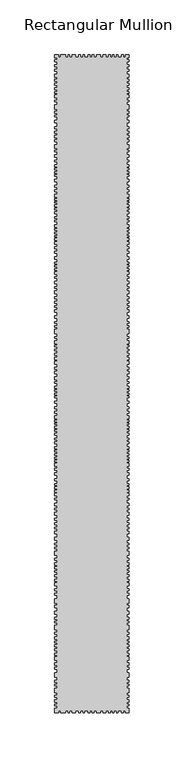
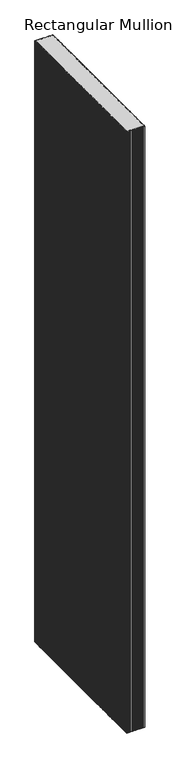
"""IFC4 building model written with IfcOpenShell, lengths in millimetres: member geometry, Rectangular Mullion : DucoSun Cubic Design louvre 600."""

from ifc_helpers import new_model, si_unit, frame, origin, place, context, project, spatial, polyline, outline, extrude, source, transform, mapped, element, save


def rectangular_mullion_ba943581(model_context):
    return source(origin(), model_context, "Body", "SweptSolid", [
        extrude(outline(polyline([(-68.0, 597.3782451), (-68.0, 600.0), (-64.4544414, 600.0), (-64.4544414, 598.0), (-62.627942, 598.0), (-62.627942, 600.0), (-57.9842994, 600.0), (-57.9842994, 598.0), (-55.8172663, 598.0), (-55.8172663, 600.0), (-54.3003431, 600.0), (-54.3003431, 598.0), (-51.9475642, 598.0), (-51.9475642, 600.0), (-48.8827601, 600.0), (-48.8827601, 598.0), (-46.0965746, 598.0), (-46.0965746, 600.0), (-44.3939057, 600.0), (-44.3939057, 598.0), (-42.0101692, 598.0), (-42.0101692, 600.0), (-40.5242036, 600.0), (-40.5242036, 598.0), (-37.4884678, 598.0), (-37.4884678, 600.0), (-35.7094289, 600.0), (-35.7094289, 598.0), (-34.0, 598.0), (-34.0, 600.0), (-32.1513512, 600.0), (-32.1513512, 598.0), (-29.7871022, 598.0), (-29.7871022, 600.0), (-26.0183489, 600.0), (-26.0183489, 598.0), (-23.9584092, 598.0), (-23.9584092, 600.0), (-21.2664425, 600.0), (-21.2664425, 598.0), (-18.9958271, 598.0), (-18.9958271, 600.0), (-17.1231547, 600.0), (-17.1231547, 598.0), (-15.0632149, 598.0), (-15.0632149, 600.0), (-13.7289358, 600.0), (-13.7289358, 598.0), (-11.6924045, 598.0), (-11.6924045, 600.0), (-10.1006329, 600.0), (-10.1006329, 598.0), (-7.0341317, 598.0), (-7.0341317, 600.0), (-5.0678256, 600.0), (-5.0678256, 598.0), (-3.1249279, 598.0), (-3.1249279, 600.0), (0.0, 600.0), (0.0, 597.3782451), (-2.0, 597.3782451), (-2.0, 595.4241521), (0.0, 595.4241521), (0.0, 593.6532553), (-2.0, 593.6532553), (-2.0, 590.9460223), (0.0, 590.9460223), (0.0, 588.9105087), (-2.0, 588.9105087), (-2.0, 586.7121541), (0.0, 586.7121541), (0.0, 585.0023227), (-2.0, 585.0023227), (-2.0, 582.3561551), (0.0, 582.3561551), (0.0, 579.3843053), (-2.0, 579.3843053), (-2.0, 577.8917893), (0.0, 577.8917893), (0.0, 575.8425117), (-2.0, 575.8425117), (-2.0, 573.8680636), (0.0, 573.8680636), (0.0, 572.1582322), (-2.0, 572.1582322), (-2.0, 570.0820083), (0.0, 570.0820083), (0.0, 568.3111116), (-2.0, 568.3111116), (-2.0, 566.4995045), (0.0, 566.4995045), (0.0, 565.0713495), (-2.0, 565.0713495), (-2.0, 563.4577392), (0.0, 563.4577392), (0.0, 561.0328231), (-2.0, 561.0328231), (-2.0, 558.5725067), (0.0, 558.5725067), (0.0, 557.0325964), (-2.0, 557.0325964), (-2.0, 554.5014796), (0.0, 554.5014796), (0.0, 550.4127524), (-2.0, 550.4127524), (-2.0, 548.4126391), (0.0, 548.4126391), (0.0, 546.8373286), (-2.0, 546.8373286), (-2.0, 544.9965163), (0.0, 544.9965163), (0.0, 543.3504053), (-2.0, 543.3504053), (-2.0, 540.3767855), (0.0, 540.3767855), (0.0, 537.9545244), (-2.0, 537.9545244), (-2.0, 534.5552168), (0.0, 534.5552168), (0.0, 532.5197032), (-2.0, 532.5197032), (-2.0, 530.239928), (0.0, 530.239928), (0.0, 528.6929377), (-2.0, 528.6929377), (-2.0, 526.4335177), (0.0, 526.4335177), (0.0, 524.5608452), (-2.0, 524.5608452), (-2.0, 522.6271073), (0.0, 522.6271073), (0.0, 520.5508835), (-2.0, 520.5508835), (-2.0, 518.0064916), (0.0, 518.0064916), (0.0, 514.9328661), (-2.0, 514.9328661), (-2.0, 512.9177077), (0.0, 512.9177077), (0.0, 511.4114277), (-2.0, 511.4114277), (-2.0, 508.9688114), (0.0, 508.9688114), (0.0, 506.7118273), (-2.0, 506.7118273), (-2.0, 503.8852623), (0.0, 503.8852623), (0.0, 502.4316003), (-2.0, 502.4316003), (-2.0, 499.9011516), (0.0, 499.9011516), (0.0, 497.8552569), (-2.0, 497.8552569), (-2.0, 496.6169522), (0.0, 496.6169522), (0.0, 495.0825312), (-2.0, 495.0825312), (-2.0, 493.4673512), (0.0, 493.4673512), (0.0, 492.0675286), (-2.0, 492.0675286), (-2.0, 490.5869469), (0.0, 490.5869469), (0.0, 489.1602046), (-2.0, 489.1602046), (-2.0, 486.3310055), (0.0, 486.3310055), (0.0, 484.2608252), (-2.0, 484.2608252), (-2.0, 481.1919832), (0.0, 481.1919832), (0.0, 479.2537672), (-2.0, 479.2537672), (-2.0, 476.9360418), (0.0, 476.9360418), (0.0, 475.0004598), (-2.0, 475.0004598), (-2.0, 472.9007258), (0.0, 472.9007258), (0.0, 470.1010805), (-2.0, 470.1010805), (-2.0, 468.8089365), (0.0, 468.8089365), (0.0, 467.3014351), (-2.0, 467.3014351), (-2.0, 466.0362108), (0.0, 466.0362108), (0.0, 465.0401831), (-2.0, 465.0401831), (-2.0, 463.2096458), (0.0, 463.2096458), (0.0, 461.6483051), (-2.0, 461.6483051), (-2.0, 460.1408038), (0.0, 460.1408038), (0.0, 458.6063828), (-2.0, 458.6063828), (-2.0, 457.0719618), (0.0, 457.0719618), (0.0, 455.0799064), (-2.0, 455.0799064), (-2.0, 452.3762692), (0.0, 452.3762692), (0.0, 450.8903036), (-2.0, 450.8903036), (-2.0, 449.1257194), (0.0, 449.1257194), (0.0, 447.6087962), (-2.0, 447.6087962), (-2.0, 444.8535683), (0.0, 444.8535683), (0.0, 442.7484504), (-2.0, 442.7484504), (-2.0, 441.4172729), (0.0, 441.4172729), (0.0, 439.9622649), (-2.0, 439.9622649), (-2.0, 438.3524688), (0.0, 438.3524688), (0.0, 436.8355456), (-2.0, 436.8355456), (-2.0, 435.1947919), (0.0, 435.1947919), (0.0, 433.9255296), (-2.0, 433.9255296), (-2.0, 432.5014792), (0.0, 432.5014792), (0.0, 431.1083865), (-2.0, 431.1083865), (-2.0, 429.6843361), (0.0, 429.6843361), (0.0, 427.0529387), (-2.0, 427.0529387), (-2.0, 424.9787784), (0.0, 424.9787784), (0.0, 423.0284485), (-2.0, 423.0284485), (-2.0, 420.7995001), (0.0, 420.7995001), (0.0, 418.8182126), (-2.0, 418.8182126), (-2.0, 415.6914933), (0.0, 415.6914933), (0.0, 413.4935025), (-2.0, 413.4935025), (-2.0, 410.954978), (0.0, 410.954978), (0.0, 409.4070971), (-2.0, 409.4070971), (-2.0, 408.1378348), (0.0, 408.1378348), (0.0, 406.4970812), (-2.0, 406.4970812), (-2.0, 404.8253698), (0.0, 404.8253698), (0.0, 403.3394042), (-2.0, 403.3394042), (-2.0, 402.0391843), (0.0, 402.0391843), (0.0, 400.0578969), (-2.0, 400.0578969), (-2.0, 397.6741604), (0.0, 397.6741604), (0.0, 396.0953219), (-2.0, 396.0953219), (-2.0, 393.3091364), (0.0, 393.3091364), (0.0, 391.0182728), (-2.0, 391.0182728), (-2.0, 388.572621), (0.0, 388.572621), (0.0, 387.1485707), (-2.0, 387.1485707), (-2.0, 385.0124951), (0.0, 385.0124951), (0.0, 382.1643944), (-2.0, 382.1643944), (-2.0, 379.3782089), (0.0, 379.3782089), (0.0, 377.427879), (-2.0, 377.427879), (-2.0, 375.4156339), (0.0, 375.4156339), (0.0, 373.6510498), (-2.0, 373.6510498), (-2.0, 371.1744404), (0.0, 371.1744404), (0.0, 369.6884748), (-2.0, 369.6884748), (-2.0, 367.5523993), (0.0, 367.5523993), (0.0, 365.4163237), (-2.0, 365.4163237), (-2.0, 362.1967316), (0.0, 362.1967316), (0.0, 359.5343765), (-2.0, 359.5343765), (-2.0, 356.7791486), (0.0, 356.7791486), (0.0, 355.0764797), (-2.0, 355.0764797), (-2.0, 352.9404041), (0.0, 352.9404041), (0.0, 351.6092266), (-2.0, 351.6092266), (-2.0, 349.5660239), (0.0, 349.5660239), (0.0, 345.512038), (-2.0, 345.512038), (-2.0, 343.0030092), (0.0, 343.0030092), (0.0, 341.3312979), (-2.0, 341.3312979), (-2.0, 339.0404342), (0.0, 339.0404342), (0.0, 336.5638249), (-2.0, 336.5638249), (-2.0, 335.015944), (0.0, 335.015944), (0.0, 333.5609361), (-2.0, 333.5609361), (-2.0, 331.5796486), (0.0, 331.5796486), (0.0, 330.0627254), (-2.0, 330.0627254), (-2.0, 327.8337769), (0.0, 327.8337769), (0.0, 326.1620656), (-2.0, 326.1620656), (-2.0, 324.0259901), (0.0, 324.0259901), (0.0, 322.0756602), (-2.0, 322.0756602), (-2.0, 320.6516099), (0.0, 320.6516099), (0.0, 317.7415939), (-2.0, 317.7415939), (-2.0, 315.2030693), (0.0, 315.2030693), (0.0, 313.1908242), (-2.0, 313.1908242), (-2.0, 311.2404944), (0.0, 311.2404944), (0.0, 309.1353764), (-2.0, 309.1353764), (-2.0, 306.2563181), (0.0, 306.2563181), (0.0, 304.6155644), (-2.0, 304.6155644), (-2.0, 301.7889994), (0.0, 301.7889994), (0.0, 300.3353374), (-2.0, 300.3353374), (-2.0, 297.8048887), (0.0, 297.8048887), (0.0, 295.758994), (-2.0, 295.758994), (-2.0, 294.5206893), (0.0, 294.5206893), (0.0, 292.9862683), (-2.0, 292.9862683), (-2.0, 291.3710883), (0.0, 291.3710883), (0.0, 289.9712657), (-2.0, 289.9712657), (-2.0, 288.490684), (0.0, 288.490684), (0.0, 287.0639417), (-2.0, 287.0639417), (-2.0, 284.2347426), (0.0, 284.2347426), (0.0, 282.1645623), (-2.0, 282.1645623), (-2.0, 279.0957203), (0.0, 279.0957203), (0.0, 277.1575043), (-2.0, 277.1575043), (-2.0, 274.8397789), (0.0, 274.8397789), (0.0, 272.9041969), (-2.0, 272.9041969), (-2.0, 270.8044629), (0.0, 270.8044629), (0.0, 268.0048176), (-2.0, 268.0048176), (-2.0, 266.7126736), (0.0, 266.7126736), (0.0, 265.2051722), (-2.0, 265.2051722), (-2.0, 263.9399479), (0.0, 263.9399479), (0.0, 262.9439202), (-2.0, 262.9439202), (-2.0, 261.1133829), (0.0, 261.1133829), (0.0, 259.5520422), (-2.0, 259.5520422), (-2.0, 258.0445409), (0.0, 258.0445409), (0.0, 256.5101199), (-2.0, 256.5101199), (-2.0, 254.9756989), (0.0, 254.9756989), (0.0, 252.9836435), (-2.0, 252.9836435), (-2.0, 250.2800063), (0.0, 250.2800063), (0.0, 248.7940407), (-2.0, 248.7940407), (-2.0, 247.0294565), (0.0, 247.0294565), (0.0, 245.5125333), (-2.0, 245.5125333), (-2.0, 242.7573054), (0.0, 242.7573054), (0.0, 240.6521875), (-2.0, 240.6521875), (-2.0, 239.32101), (0.0, 239.32101), (0.0, 237.866002), (-2.0, 237.866002), (-2.0, 236.2562059), (0.0, 236.2562059), (0.0, 234.7392827), (-2.0, 234.7392827), (-2.0, 233.098529), (0.0, 233.098529), (0.0, 231.8292667), (-2.0, 231.8292667), (-2.0, 230.4052163), (0.0, 230.4052163), (0.0, 229.0121236), (-2.0, 229.0121236), (-2.0, 227.5880732), (0.0, 227.5880732), (0.0, 224.9566758), (-2.0, 224.9566758), (-2.0, 222.8825155), (0.0, 222.8825155), (0.0, 220.9321856), (-2.0, 220.9321856), (-2.0, 218.7032372), (0.0, 218.7032372), (0.0, 216.7219497), (-2.0, 216.7219497), (-2.0, 213.5952304), (0.0, 213.5952304), (0.0, 211.3972396), (-2.0, 211.3972396), (-2.0, 208.8587151), (0.0, 208.8587151), (0.0, 207.3108342), (-2.0, 207.3108342), (-2.0, 206.0415719), (0.0, 206.0415719), (0.0, 204.4008183), (-2.0, 204.4008183), (-2.0, 202.7291069), (0.0, 202.7291069), (0.0, 201.2431413), (-2.0, 201.2431413), (-2.0, 199.9429214), (0.0, 199.9429214), (0.0, 197.961634), (-2.0, 197.961634), (-2.0, 195.5778975), (0.0, 195.5778975), (0.0, 193.999059), (-2.0, 193.999059), (-2.0, 191.2128735), (0.0, 191.2128735), (0.0, 188.9220099), (-2.0, 188.9220099), (-2.0, 186.4763581), (0.0, 186.4763581), (0.0, 185.0523078), (-2.0, 185.0523078), (-2.0, 182.9162322), (0.0, 182.9162322), (0.0, 180.0681315), (-2.0, 180.0681315), (-2.0, 177.281946), (0.0, 177.281946), (0.0, 175.3316161), (-2.0, 175.3316161), (-2.0, 173.319371), (0.0, 173.319371), (0.0, 171.5547869), (-2.0, 171.5547869), (-2.0, 169.0781775), (0.0, 169.0781775), (0.0, 167.5922119), (-2.0, 167.5922119), (-2.0, 165.4561364), (0.0, 165.4561364), (0.0, 163.3200608), (-2.0, 163.3200608), (-2.0, 160.1004687), (0.0, 160.1004687), (0.0, 157.4381136), (-2.0, 157.4381136), (-2.0, 154.6828857), (0.0, 154.6828857), (0.0, 152.9802168), (-2.0, 152.9802168), (-2.0, 150.8441412), (0.0, 150.8441412), (0.0, 149.5129637), (-2.0, 149.5129637), (-2.0, 147.469761), (0.0, 147.469761), (0.0, 143.4157751), (-2.0, 143.4157751), (-2.0, 140.9067463), (0.0, 140.9067463), (0.0, 139.235035), (-2.0, 139.235035), (-2.0, 136.9441713), (0.0, 136.9441713), (0.0, 134.467562), (-2.0, 134.467562), (-2.0, 132.9196811), (0.0, 132.9196811), (0.0, 131.4646731), (-2.0, 131.4646731), (-2.0, 129.4833857), (0.0, 129.4833857), (0.0, 127.9664625), (-2.0, 127.9664625), (-2.0, 125.737514), (0.0, 125.737514), (0.0, 124.0658027), (-2.0, 124.0658027), (-2.0, 121.9297272), (0.0, 121.9297272), (0.0, 119.9793973), (-2.0, 119.9793973), (-2.0, 118.555347), (0.0, 118.555347), (0.0, 115.645331), (-2.0, 115.645331), (-2.0, 113.1068064), (0.0, 113.1068064), (0.0, 111.0945613), (-2.0, 111.0945613), (-2.0, 109.1442315), (0.0, 109.1442315), (0.0, 107.0391135), (-2.0, 107.0391135), (-2.0, 104.0), (0.0, 104.0), (0.0, 100.0), (-2.0, 100.0), (-2.0, 97.8639244), (0.0, 97.8639244), (0.0, 95.7278489), (-2.0, 95.7278489), (-2.0, 92.5082567), (0.0, 92.5082567), (0.0, 89.8459017), (-2.0, 89.8459017), (-2.0, 87.0906738), (0.0, 87.0906738), (0.0, 85.3880049), (-2.0, 85.3880049), (-2.0, 83.2519293), (0.0, 83.2519293), (0.0, 81.9207518), (-2.0, 81.9207518), (-2.0, 79.8775491), (0.0, 79.8775491), (0.0, 75.8235632), (-2.0, 75.8235632), (-2.0, 73.3145343), (0.0, 73.3145343), (0.0, 71.642823), (-2.0, 71.642823), (-2.0, 69.3519594), (0.0, 69.3519594), (0.0, 66.8753501), (-2.0, 66.8753501), (-2.0, 65.3274692), (0.0, 65.3274692), (0.0, 63.8724612), (-2.0, 63.8724612), (-2.0, 61.8911738), (0.0, 61.8911738), (0.0, 60.3742505), (-2.0, 60.3742505), (-2.0, 58.1453021), (0.0, 58.1453021), (0.0, 56.4735908), (-2.0, 56.4735908), (-2.0, 54.3375153), (0.0, 54.3375153), (0.0, 52.3871854), (-2.0, 52.3871854), (-2.0, 50.963135), (0.0, 50.963135), (0.0, 48.0531191), (-2.0, 48.0531191), (-2.0, 45.5145945), (0.0, 45.5145945), (0.0, 43.5023494), (-2.0, 43.5023494), (-2.0, 41.5520195), (0.0, 41.5520195), (0.0, 39.4469016), (-2.0, 39.4469016), (-2.0, 36.4077881), (0.0, 36.4077881), (0.0, 32.4077881), (-2.0, 32.4077881), (-2.0, 29.6525602), (0.0, 29.6525602), (0.0, 27.9498913), (-2.0, 27.9498913), (-2.0, 25.8138157), (0.0, 25.8138157), (0.0, 24.4826382), (-2.0, 24.4826382), (-2.0, 22.4394355), (0.0, 22.4394355), (0.0, 18.3854496), (-2.0, 18.3854496), (-2.0, 15.8764207), (0.0, 15.8764207), (0.0, 14.2047094), (-2.0, 14.2047094), (-2.0, 11.9138458), (0.0, 11.9138458), (0.0, 9.4372364), (-2.0, 9.4372364), (-2.0, 7.8893556), (0.0, 7.8893556), (0.0, 6.4343476), (-2.0, 6.4343476), (-2.0, 4.0), (0.0, 4.0), (0.0, 0.0), (-3.1249279, 0.0), (-3.1249279, 2.0), (-5.0678256, 2.0), (-5.0678256, 0.0), (-7.0341317, 0.0), (-7.0341317, 2.0), (-10.1006329, 2.0), (-10.1006329, 0.0), (-11.6924045, 0.0), (-11.6924045, 2.0), (-13.7289358, 2.0), (-13.7289358, 0.0), (-15.0632149, 0.0), (-15.0632149, 2.0), (-17.1231547, 2.0), (-17.1231547, 0.0), (-18.9958271, 0.0), (-18.9958271, 2.0), (-21.2664425, 2.0), (-21.2664425, 0.0), (-23.9584092, 0.0), (-23.9584092, 2.0), (-26.0183489, 2.0), (-26.0183489, 0.0), (-29.7871022, 0.0), (-29.7871022, 2.0), (-32.1513512, 2.0), (-32.1513512, 0.0), (-34.0, 0.0), (-34.0, 2.0), (-35.7094289, 2.0), (-35.7094289, 0.0), (-37.4884678, 0.0), (-37.4884678, 2.0), (-40.5242036, 2.0), (-40.5242036, 0.0), (-42.0101692, 0.0), (-42.0101692, 2.0), (-44.3939057, 2.0), (-44.3939057, 0.0), (-46.0965746, 0.0), (-46.0965746, 2.0), (-48.8827601, 2.0), (-48.8827601, 0.0), (-51.9475642, 0.0), (-51.9475642, 2.0), (-54.3003431, 2.0), (-54.3003431, 0.0), (-55.8172663, 0.0), (-55.8172663, 2.0), (-57.9842994, 2.0), (-57.9842994, 0.0), (-62.627942, 0.0), (-62.627942, 2.0), (-64.4544414, 2.0), (-64.4544414, 0.0), (-68.0, 0.0), (-68.0, 4.0), (-66.0, 4.0), (-66.0, 6.4343476), (-68.0, 6.4343476), (-68.0, 7.8893556), (-66.0, 7.8893556), (-66.0, 9.4372364), (-68.0, 9.4372364), (-68.0, 11.9138458), (-66.0, 11.9138458), (-66.0, 14.2047094), (-68.0, 14.2047094), (-68.0, 15.8764207), (-66.0, 15.8764207), (-66.0, 18.3854496), (-68.0, 18.3854496), (-68.0, 22.4394355), (-66.0, 22.4394355), (-66.0, 24.4826382), (-68.0, 24.4826382), (-68.0, 25.8138157), (-66.0, 25.8138157), (-66.0, 27.9498913), (-68.0, 27.9498913), (-68.0, 29.6525602), (-66.0, 29.6525602), (-66.0, 32.4077881), (-68.0, 32.4077881), (-68.0, 36.4077881), (-66.0, 36.4077881), (-66.0, 39.4469016), (-68.0, 39.4469016), (-68.0, 41.5520195), (-66.0, 41.5520195), (-66.0, 43.5023494), (-68.0, 43.5023494), (-68.0, 45.5145945), (-66.0, 45.5145945), (-66.0, 48.0531191), (-68.0, 48.0531191), (-68.0, 50.963135), (-66.0, 50.963135), (-66.0, 52.3871854), (-68.0, 52.3871854), (-68.0, 54.3375153), (-66.0, 54.3375153), (-66.0, 56.4735908), (-68.0, 56.4735908), (-68.0, 58.1453021), (-66.0, 58.1453021), (-66.0, 60.3742505), (-68.0, 60.3742505), (-68.0, 61.8911738), (-66.0, 61.8911738), (-66.0, 63.8724612), (-68.0, 63.8724612), (-68.0, 65.3274692), (-66.0, 65.3274692), (-66.0, 66.8753501), (-68.0, 66.8753501), (-68.0, 69.3519594), (-66.0, 69.3519594), (-66.0, 71.642823), (-68.0, 71.642823), (-68.0, 73.3145343), (-66.0, 73.3145343), (-66.0, 75.8235632), (-68.0, 75.8235632), (-68.0, 79.8775491), (-66.0, 79.8775491), (-66.0, 81.9207518), (-68.0, 81.9207518), (-68.0, 83.2519293), (-66.0, 83.2519293), (-66.0, 85.3880049), (-68.0, 85.3880049), (-68.0, 87.0906738), (-66.0, 87.0906738), (-66.0, 89.8459017), (-68.0, 89.8459017), (-68.0, 92.5082567), (-66.0, 92.5082567), (-66.0, 95.7278489), (-68.0, 95.7278489), (-68.0, 97.8639244), (-66.0, 97.8639244), (-66.0, 100.0), (-68.0, 100.0), (-68.0, 104.0), (-66.0, 104.0), (-66.0, 107.0391135), (-68.0, 107.0391135), (-68.0, 109.1442315), (-66.0, 109.1442315), (-66.0, 111.0945613), (-68.0, 111.0945613), (-68.0, 113.1068064), (-66.0, 113.1068064), (-66.0, 115.645331), (-68.0, 115.645331), (-68.0, 118.555347), (-66.0, 118.555347), (-66.0, 119.9793973), (-68.0, 119.9793973), (-68.0, 121.9297272), (-66.0, 121.9297272), (-66.0, 124.0658027), (-68.0, 124.0658027), (-68.0, 125.737514), (-66.0, 125.737514), (-66.0, 127.9664625), (-68.0, 127.9664625), (-68.0, 129.4833857), (-66.0, 129.4833857), (-66.0, 131.4646731), (-68.0, 131.4646731), (-68.0, 132.9196811), (-66.0, 132.9196811), (-66.0, 134.467562), (-68.0, 134.467562), (-68.0, 136.9441713), (-66.0, 136.9441713), (-66.0, 139.235035), (-68.0, 139.235035), (-68.0, 140.9067463), (-66.0, 140.9067463), (-66.0, 143.4157751), (-68.0, 143.4157751), (-68.0, 147.469761), (-66.0, 147.469761), (-66.0, 149.5129637), (-68.0, 149.5129637), (-68.0, 150.8441412), (-66.0, 150.8441412), (-66.0, 152.9802168), (-68.0, 152.9802168), (-68.0, 154.6828857), (-66.0, 154.6828857), (-66.0, 157.4381136), (-68.0, 157.4381136), (-68.0, 160.1004687), (-66.0, 160.1004687), (-66.0, 163.3200608), (-68.0, 163.3200608), (-68.0, 165.4561364), (-66.0, 165.4561364), (-66.0, 167.5922119), (-68.0, 167.5922119), (-68.0, 169.0781775), (-66.0, 169.0781775), (-66.0, 171.5547869), (-68.0, 171.5547869), (-68.0, 173.319371), (-66.0, 173.319371), (-66.0, 175.3316161), (-68.0, 175.3316161), (-68.0, 177.281946), (-66.0, 177.281946), (-66.0, 180.0681315), (-68.0, 180.0681315), (-68.0, 182.9162322), (-66.0, 182.9162322), (-66.0, 185.0523078), (-68.0, 185.0523078), (-68.0, 186.4763581), (-66.0, 186.4763581), (-66.0, 188.9220099), (-68.0, 188.9220099), (-68.0, 191.2128735), (-66.0, 191.2128735), (-66.0, 193.999059), (-68.0, 193.999059), (-68.0, 195.5778975), (-66.0, 195.5778975), (-66.0, 197.961634), (-68.0, 197.961634), (-68.0, 199.9429214), (-66.0, 199.9429214), (-66.0, 201.2431413), (-68.0, 201.2431413), (-68.0, 202.7291069), (-66.0, 202.7291069), (-66.0, 204.4008183), (-68.0, 204.4008183), (-68.0, 206.0415719), (-66.0, 206.0415719), (-66.0, 207.3108342), (-68.0, 207.3108342), (-68.0, 208.8587151), (-66.0, 208.8587151), (-66.0, 211.3972396), (-68.0, 211.3972396), (-68.0, 213.5952304), (-66.0, 213.5952304), (-66.0, 216.7219497), (-68.0, 216.7219497), (-68.0, 218.7032372), (-66.0, 218.7032372), (-66.0, 220.9321856), (-68.0, 220.9321856), (-68.0, 222.8825155), (-66.0, 222.8825155), (-66.0, 224.9566758), (-68.0, 224.9566758), (-68.0, 227.5880732), (-66.0, 227.5880732), (-66.0, 229.0121236), (-68.0, 229.0121236), (-68.0, 230.4052163), (-66.0, 230.4052163), (-66.0, 231.8292667), (-68.0, 231.8292667), (-68.0, 233.098529), (-66.0, 233.098529), (-66.0, 234.7392827), (-68.0, 234.7392827), (-68.0, 236.2562059), (-66.0, 236.2562059), (-66.0, 237.866002), (-68.0, 237.866002), (-68.0, 239.32101), (-66.0, 239.32101), (-66.0, 240.6521875), (-68.0, 240.6521875), (-68.0, 242.7573054), (-66.0, 242.7573054), (-66.0, 245.5125333), (-68.0, 245.5125333), (-68.0, 247.0294565), (-66.0, 247.0294565), (-66.0, 248.7940407), (-68.0, 248.7940407), (-68.0, 250.2800063), (-66.0, 250.2800063), (-66.0, 252.9836435), (-68.0, 252.9836435), (-68.0, 254.9756989), (-66.0, 254.9756989), (-66.0, 256.5101199), (-68.0, 256.5101199), (-68.0, 258.0445409), (-66.0, 258.0445409), (-66.0, 259.5520422), (-68.0, 259.5520422), (-68.0, 261.1133829), (-66.0, 261.1133829), (-66.0, 262.9439202), (-68.0, 262.9439202), (-68.0, 263.9399479), (-66.0, 263.9399479), (-66.0, 265.2051722), (-68.0, 265.2051722), (-68.0, 266.7126736), (-66.0, 266.7126736), (-66.0, 268.0048176), (-68.0, 268.0048176), (-68.0, 270.8044629), (-66.0, 270.8044629), (-66.0, 272.9041969), (-68.0, 272.9041969), (-68.0, 274.8397789), (-66.0, 274.8397789), (-66.0, 277.1575043), (-68.0, 277.1575043), (-68.0, 279.0957203), (-66.0, 279.0957203), (-66.0, 282.1645623), (-68.0, 282.1645623), (-68.0, 284.2347426), (-66.0, 284.2347426), (-66.0, 287.0639417), (-68.0, 287.0639417), (-68.0, 288.490684), (-66.0, 288.490684), (-66.0, 289.9712657), (-68.0, 289.9712657), (-68.0, 291.3710883), (-66.0, 291.3710883), (-66.0, 292.9862683), (-68.0, 292.9862683), (-68.0, 294.5206893), (-66.0, 294.5206893), (-66.0, 295.758994), (-68.0, 295.758994), (-68.0, 297.8048887), (-66.0, 297.8048887), (-66.0, 300.3353374), (-68.0, 300.3353374), (-68.0, 301.7889994), (-66.0, 301.7889994), (-66.0, 303.7186411), (-68.0, 303.7186411), (-68.0, 306.2563181), (-66.0, 306.2563181), (-66.0, 309.1353764), (-68.0, 309.1353764), (-68.0, 311.2404944), (-66.0, 311.2404944), (-66.0, 313.1908242), (-68.0, 313.1908242), (-68.0, 315.2030693), (-66.0, 315.2030693), (-66.0, 317.7415939), (-68.0, 317.7415939), (-68.0, 320.6516099), (-66.0, 320.6516099), (-66.0, 322.0756602), (-68.0, 322.0756602), (-68.0, 324.0259901), (-66.0, 324.0259901), (-66.0, 326.1620656), (-68.0, 326.1620656), (-68.0, 327.8337769), (-66.0, 327.8337769), (-66.0, 330.0627254), (-68.0, 330.0627254), (-68.0, 331.5796486), (-66.0, 331.5796486), (-66.0, 333.5609361), (-68.0, 333.5609361), (-68.0, 335.015944), (-66.0, 335.015944), (-66.0, 336.5638249), (-68.0, 336.5638249), (-68.0, 339.0404342), (-66.0, 339.0404342), (-66.0, 341.3312979), (-68.0, 341.3312979), (-68.0, 343.0030092), (-66.0, 343.0030092), (-66.0, 345.512038), (-68.0, 345.512038), (-68.0, 349.5660239), (-66.0, 349.5660239), (-66.0, 351.6092266), (-68.0, 351.6092266), (-68.0, 352.9404041), (-66.0, 352.9404041), (-66.0, 355.0764797), (-68.0, 355.0764797), (-68.0, 356.7791486), (-66.0, 356.7791486), (-66.0, 359.5343765), (-68.0, 359.5343765), (-68.0, 362.1967316), (-66.0, 362.1967316), (-66.0, 365.4163237), (-68.0, 365.4163237), (-68.0, 367.5523993), (-66.0, 367.5523993), (-66.0, 369.6884748), (-68.0, 369.6884748), (-68.0, 371.1744404), (-66.0, 371.1744404), (-66.0, 373.6510498), (-68.0, 373.6510498), (-68.0, 375.4156339), (-66.0, 375.4156339), (-66.0, 377.427879), (-68.0, 377.427879), (-68.0, 379.3782089), (-66.0, 379.3782089), (-66.0, 382.1643944), (-68.0, 382.1643944), (-68.0, 385.0124951), (-66.0, 385.0124951), (-66.0, 387.1485707), (-68.0, 387.1485707), (-68.0, 388.572621), (-66.0, 388.572621), (-66.0, 391.0182728), (-68.0, 391.0182728), (-68.0, 393.3091364), (-66.0, 393.3091364), (-66.0, 396.0953219), (-68.0, 396.0953219), (-68.0, 397.6741604), (-66.0, 397.6741604), (-66.0, 400.0578969), (-68.0, 400.0578969), (-68.0, 402.0391843), (-66.0, 402.0391843), (-66.0, 403.3394042), (-68.0, 403.3394042), (-68.0, 404.8253698), (-66.0, 404.8253698), (-66.0, 406.4970812), (-68.0, 406.4970812), (-68.0, 408.1378348), (-66.0, 408.1378348), (-66.0, 409.4070971), (-68.0, 409.4070971), (-68.0, 410.954978), (-66.0, 410.954978), (-66.0, 413.4935025), (-68.0, 413.4935025), (-68.0, 415.6914933), (-66.0, 415.6914933), (-66.0, 418.8182126), (-68.0, 418.8182126), (-68.0, 420.7995001), (-66.0, 420.7995001), (-66.0, 423.0284485), (-68.0, 423.0284485), (-68.0, 424.9787784), (-66.0, 424.9787784), (-66.0, 427.0529387), (-68.0, 427.0529387), (-68.0, 429.6843361), (-66.0, 429.6843361), (-66.0, 431.1083865), (-68.0, 431.1083865), (-68.0, 432.5014792), (-66.0, 432.5014792), (-66.0, 433.9255296), (-68.0, 433.9255296), (-68.0, 435.1947919), (-66.0, 435.1947919), (-66.0, 436.8355456), (-68.0, 436.8355456), (-68.0, 438.3524688), (-66.0, 438.3524688), (-66.0, 439.9622649), (-68.0, 439.9622649), (-68.0, 441.4172729), (-66.0, 441.4172729), (-66.0, 442.7484504), (-68.0, 442.7484504), (-68.0, 444.8535683), (-66.0, 444.8535683), (-66.0, 447.6087962), (-68.0, 447.6087962), (-68.0, 449.1257194), (-66.0, 449.1257194), (-66.0, 450.8903036), (-68.0, 450.8903036), (-68.0, 452.3762692), (-66.0, 452.3762692), (-66.0, 455.0799064), (-68.0, 455.0799064), (-68.0, 457.0719618), (-66.0, 457.0719618), (-66.0, 458.6063828), (-68.0, 458.6063828), (-68.0, 460.1408038), (-66.0, 460.1408038), (-66.0, 461.6483051), (-68.0, 461.6483051), (-68.0, 463.2096458), (-66.0, 463.2096458), (-66.0, 465.0401831), (-68.0, 465.0401831), (-68.0, 466.0362108), (-66.0, 466.0362108), (-66.0, 467.3014351), (-68.0, 467.3014351), (-68.0, 468.8089365), (-66.0, 468.8089365), (-66.0, 470.1010805), (-68.0, 470.1010805), (-68.0, 472.9007258), (-66.0, 472.9007258), (-66.0, 475.0004598), (-68.0, 475.0004598), (-68.0, 476.9360418), (-66.0, 476.9360418), (-66.0, 479.2537672), (-68.0, 479.2537672), (-68.0, 481.1919832), (-66.0, 481.1919832), (-66.0, 484.2608252), (-68.0, 484.2608252), (-68.0, 486.3310055), (-66.0, 486.3310055), (-66.0, 489.1602046), (-68.0, 489.1602046), (-68.0, 490.5869469), (-66.0, 490.5869469), (-66.0, 492.0675286), (-68.0, 492.0675286), (-68.0, 493.4673512), (-66.0, 493.4673512), (-66.0, 495.0825312), (-68.0, 495.0825312), (-68.0, 496.6169522), (-66.0, 496.6169522), (-66.0, 497.8552569), (-68.0, 497.8552569), (-68.0, 499.9011516), (-66.0, 499.9011516), (-66.0, 502.4316003), (-68.0, 502.4316003), (-68.0, 503.8852623), (-66.0, 503.8852623), (-66.0, 506.7118273), (-68.0, 506.7118273), (-68.0, 508.9688114), (-66.0, 508.9688114), (-66.0, 511.4114277), (-68.0, 511.4114277), (-68.0, 512.9177077), (-66.0, 512.9177077), (-66.0, 514.9328661), (-68.0, 514.9328661), (-68.0, 518.0064916), (-66.0, 518.0064916), (-66.0, 520.5508835), (-68.0, 520.5508835), (-68.0, 522.6271073), (-66.0, 522.6271073), (-66.0, 524.5608452), (-68.0, 524.5608452), (-68.0, 526.4335177), (-66.0, 526.4335177), (-66.0, 528.6929377), (-68.0, 528.6929377), (-68.0, 530.239928), (-66.0, 530.239928), (-66.0, 532.5197032), (-68.0, 532.5197032), (-68.0, 534.5552168), (-66.0, 534.5552168), (-66.0, 537.9545244), (-68.0, 537.9545244), (-68.0, 540.3767855), (-66.0, 540.3767855), (-66.0, 543.3504053), (-68.0, 543.3504053), (-68.0, 544.9965163), (-66.0, 544.9965163), (-66.0, 546.8373286), (-68.0, 546.8373286), (-68.0, 548.4126391), (-66.0, 548.4126391), (-66.0, 550.4127524), (-68.0, 550.4127524), (-68.0, 554.5014796), (-66.0, 554.5014796), (-66.0, 557.0325964), (-68.0, 557.0325964), (-68.0, 558.5725067), (-66.0, 558.5725067), (-66.0, 561.0328231), (-68.0, 561.0328231), (-68.0, 563.4577392), (-66.0, 563.4577392), (-66.0, 565.0713495), (-68.0, 565.0713495), (-68.0, 566.4995045), (-66.0, 566.4995045), (-66.0, 568.3111116), (-68.0, 568.3111116), (-68.0, 570.0820083), (-66.0, 570.0820083), (-66.0, 572.1582322), (-68.0, 572.1582322), (-68.0, 573.8680636), (-66.0, 573.8680636), (-66.0, 575.8425117), (-68.0, 575.8425117), (-68.0, 577.8917893), (-66.0, 577.8917893), (-66.0, 579.3843053), (-68.0, 579.3843053), (-68.0, 582.3561551), (-66.0, 582.3561551), (-66.0, 585.0023227), (-68.0, 585.0023227), (-68.0, 586.7121541), (-66.0, 586.7121541), (-66.0, 588.9105087), (-68.0, 588.9105087), (-68.0, 590.9460223), (-66.0, 590.9460223), (-66.0, 593.6532553), (-68.0, 593.6532553), (-68.0, 595.4241521), (-66.0, 595.4241521), (-66.0, 597.3782451), (-68.0, 597.3782451)])), frame((0.0, 0.0, -2400.0), z_axis=(0.0, 0.0, 1.0), x_axis=(1.0, 0.0, 0.0)), (0.0, 0.0, 1.0), 2400.0),
    ])


if __name__ == "__main__":
    model = new_model("IFC4")
    model_context = context("Model", 3, world=origin())
    ifc_project = project(units=[si_unit("LENGTHUNIT", "METRE", prefix="MILLI")], contexts=[model_context])
    site = spatial("IfcSite", under=ifc_project)
    building = spatial("IfcBuilding", under=site)
    placement = place(None, origin())
    rectangular_mullion_shape = rectangular_mullion_ba943581(model_context)
    element("IfcMember", 1, ObjectType="Rectangular Mullion : DucoSun Cubic Design louvre 600", at=placement, inside=building, context=model_context, shape_type="MappedRepresentation", body=[
        mapped(rectangular_mullion_shape, transform((0.0, 0.0, 0.0), x_axis=(1.0, 0.0, 0.0), y_axis=(0.0, 1.0, 0.0), z_axis=(0.0, 0.0, 1.0))),
    ])
    save(model, "model.ifc")
